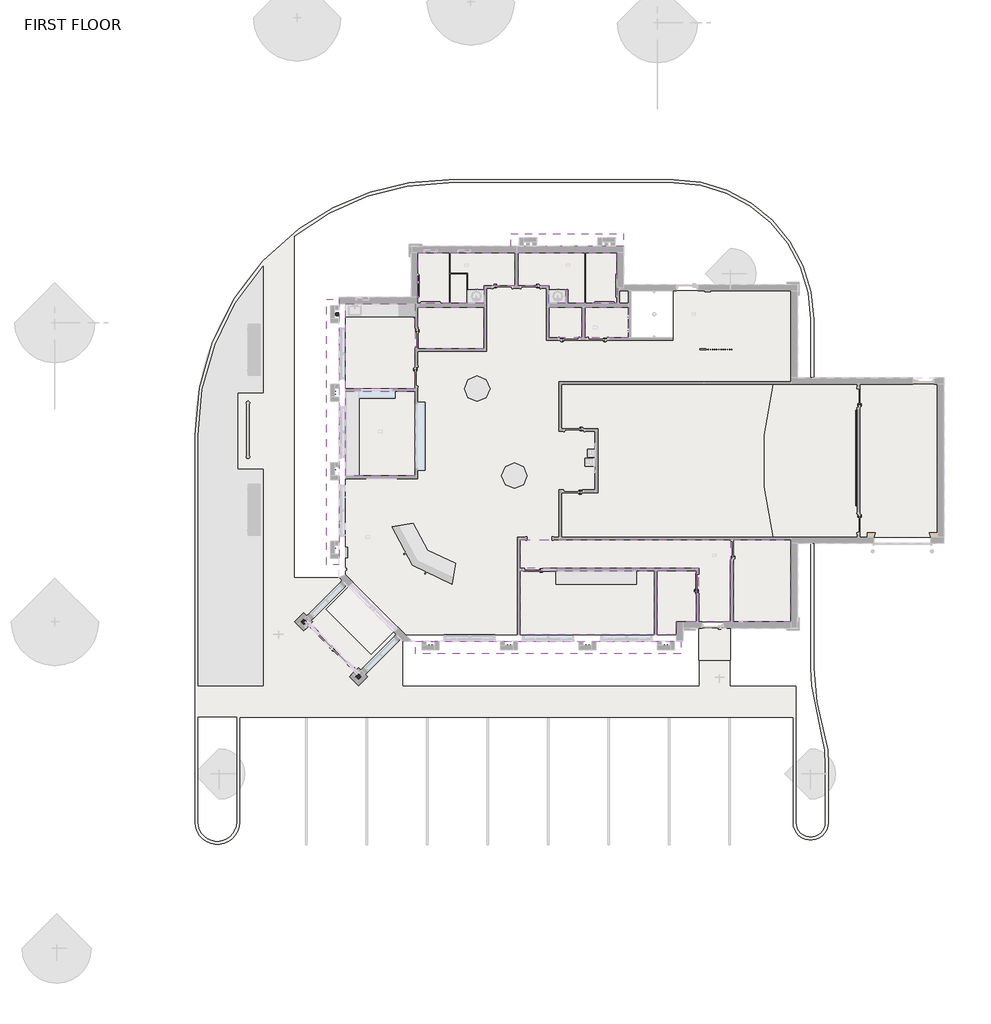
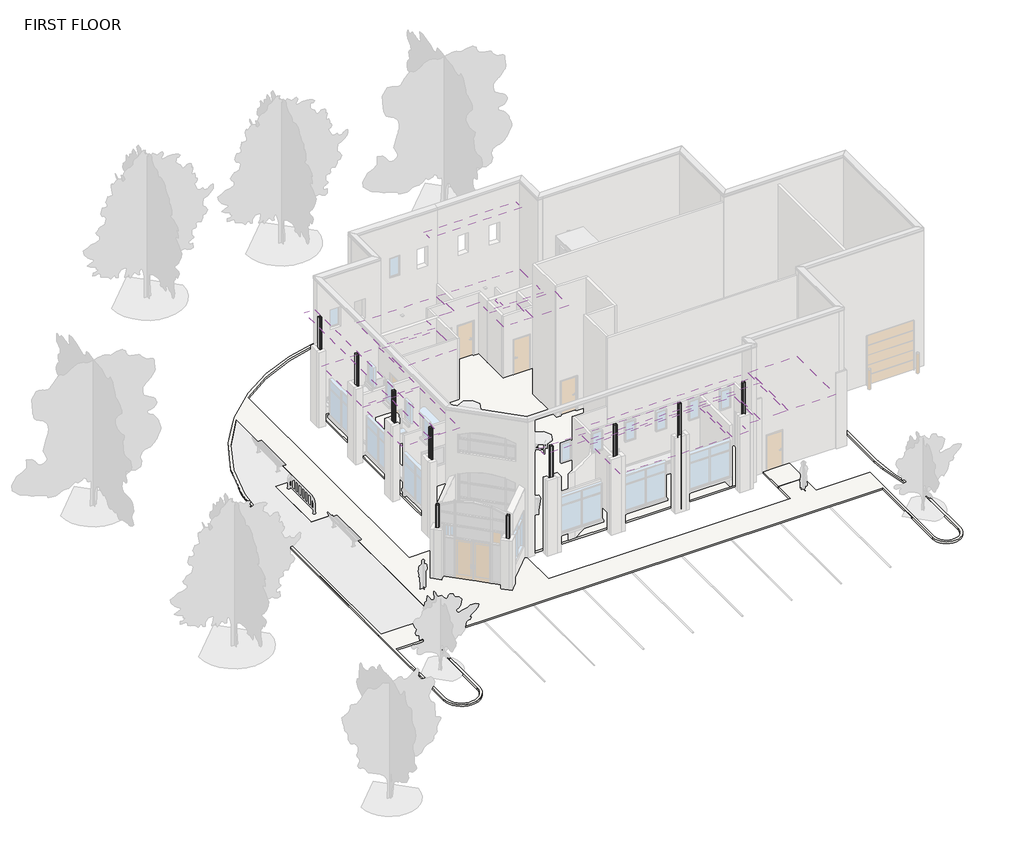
# One storey, part 5 of 7: 11 coverings, 10 columns, 4 slabs, 3 roofs.
"""IFC4 building model written with IfcOpenShell, lengths in millimetres."""

from ifc_helpers import new_model, si_unit, point, frame, frame_2d, origin, place, context, project, spatial, polyline, circle_curve, trimmed, segment, composite_curve, outline, extrude, element, save

model = new_model("IFC4")

# Units and contexts
model_context = context("Model", 3, world=origin())
ifc_project = project(units=[si_unit("LENGTHUNIT", "METRE", prefix="MILLI")], contexts=[model_context])

# Site, building, storey
site = spatial("IfcSite", under=ifc_project)
building = spatial("IfcBuilding", under=site)
storey = spatial("IfcBuildingStorey", under=building, Name="FIRST FLOOR", Elevation=30480.0)

# Columns
placement = place(None, origin())
element("IfcColumn", 1, ObjectType="HSS-Hollow Structural Section-Column : HSS6X6X1/2", at=placement, inside=storey, context=model_context, shape_type="SweptSolid", body=[
    extrude(outline(composite_curve([segment(trimmed(circle_curve(frame_2d((-12403.0493155, -6306.813022)), 23.6140625), [point((-12403.0493155, -6283.1989595))], [point((-12379.435253, -6306.813022))], False, "CARTESIAN"), True, "CONTINUOUS"), segment(polyline([(-12379.435253, -6306.813022), (-12379.435253, -6411.984897)]), True, "CONTINUOUS"), segment(trimmed(circle_curve(frame_2d((-12403.0493155, -6411.984897)), 23.6140625), [point((-12379.435253, -6411.984897))], [point((-12403.0493155, -6435.5989595))], False, "CARTESIAN"), True, "CONTINUOUS"), segment(polyline([(-12403.0493155, -6435.5989595), (-12508.2211905, -6435.5989595)]), True, "CONTINUOUS"), segment(trimmed(circle_curve(frame_2d((-12508.2211905, -6411.984897)), 23.6140625), [point((-12508.2211905, -6435.5989595))], [point((-12531.835253, -6411.984897))], False, "CARTESIAN"), True, "CONTINUOUS"), segment(polyline([(-12531.835253, -6411.984897), (-12531.835253, -6306.813022)]), True, "CONTINUOUS"), segment(trimmed(circle_curve(frame_2d((-12508.2211905, -6306.813022)), 23.6140625), [point((-12531.835253, -6306.813022))], [point((-12508.2211905, -6283.1989595))], False, "CARTESIAN"), True, "CONTINUOUS"), segment(polyline([(-12508.2211905, -6283.1989595), (-12403.0493155, -6283.1989595)]), True, "CONTINUOUS")], self_intersect=False), holes=[composite_curve([segment(polyline([(-12403.0493155, -6295.0059907), (-12508.2211905, -6295.0059907)]), True, "CONTINUOUS"), segment(trimmed(circle_curve(frame_2d((-12508.2211905, -6306.813022)), 11.8070312), [point((-12508.2211905, -6295.0059907))], [point((-12520.0282218, -6306.813022))], True, "CARTESIAN"), True, "CONTINUOUS"), segment(polyline([(-12520.0282218, -6306.813022), (-12520.0282218, -6411.984897)]), True, "CONTINUOUS"), segment(trimmed(circle_curve(frame_2d((-12508.2211905, -6411.984897)), 11.8070312), [point((-12520.0282218, -6411.984897))], [point((-12508.2211905, -6423.7919282))], True, "CARTESIAN"), True, "CONTINUOUS"), segment(polyline([(-12508.2211905, -6423.7919282), (-12403.0493155, -6423.7919282)]), True, "CONTINUOUS"), segment(trimmed(circle_curve(frame_2d((-12403.0493155, -6411.984897)), 11.8070312), [point((-12403.0493155, -6423.7919282))], [point((-12391.2422843, -6411.984897))], True, "CARTESIAN"), True, "CONTINUOUS"), segment(polyline([(-12391.2422843, -6411.984897), (-12391.2422843, -6306.813022)]), True, "CONTINUOUS"), segment(trimmed(circle_curve(frame_2d((-12403.0493155, -6306.813022)), 11.8070312), [point((-12391.2422843, -6306.813022))], [point((-12403.0493155, -6295.0059907))], True, "CARTESIAN"), True, "CONTINUOUS")], self_intersect=False)]), frame((0.0, 0.0, 30480.0), z_axis=(0.0, 0.0, 1.0), x_axis=(1.0, 0.0, 0.0)), (0.0, 0.0, 1.0), 6553.2),
])
element("IfcColumn", 2, ObjectType="HSS-Hollow Structural Section-Column : HSS6X6X1/2", at=placement, inside=storey, context=model_context, shape_type="SweptSolid", body=[
    extrude(outline(composite_curve([segment(trimmed(circle_curve(frame_2d((-8643.8594755, -6306.813022)), 23.6140625), [point((-8643.8594755, -6283.1989595))], [point((-8620.245413, -6306.813022))], False, "CARTESIAN"), True, "CONTINUOUS"), segment(polyline([(-8620.245413, -6306.813022), (-8620.245413, -6411.984897)]), True, "CONTINUOUS"), segment(trimmed(circle_curve(frame_2d((-8643.8594755, -6411.984897)), 23.6140625), [point((-8620.245413, -6411.984897))], [point((-8643.8594755, -6435.5989595))], False, "CARTESIAN"), True, "CONTINUOUS"), segment(polyline([(-8643.8594755, -6435.5989595), (-8749.0313505, -6435.5989595)]), True, "CONTINUOUS"), segment(trimmed(circle_curve(frame_2d((-8749.0313505, -6411.984897)), 23.6140625), [point((-8749.0313505, -6435.5989595))], [point((-8772.645413, -6411.984897))], False, "CARTESIAN"), True, "CONTINUOUS"), segment(polyline([(-8772.645413, -6411.984897), (-8772.645413, -6306.813022)]), True, "CONTINUOUS"), segment(trimmed(circle_curve(frame_2d((-8749.0313505, -6306.813022)), 23.6140625), [point((-8772.645413, -6306.813022))], [point((-8749.0313505, -6283.1989595))], False, "CARTESIAN"), True, "CONTINUOUS"), segment(polyline([(-8749.0313505, -6283.1989595), (-8643.8594755, -6283.1989595)]), True, "CONTINUOUS")], self_intersect=False), holes=[composite_curve([segment(polyline([(-8643.8594755, -6295.0059907), (-8749.0313505, -6295.0059907)]), True, "CONTINUOUS"), segment(trimmed(circle_curve(frame_2d((-8749.0313505, -6306.813022)), 11.8070312), [point((-8749.0313505, -6295.0059907))], [point((-8760.8383818, -6306.813022))], True, "CARTESIAN"), True, "CONTINUOUS"), segment(polyline([(-8760.8383818, -6306.813022), (-8760.8383818, -6411.984897)]), True, "CONTINUOUS"), segment(trimmed(circle_curve(frame_2d((-8749.0313505, -6411.984897)), 11.8070313), [point((-8760.8383818, -6411.984897))], [point((-8749.0313505, -6423.7919282))], True, "CARTESIAN"), True, "CONTINUOUS"), segment(polyline([(-8749.0313505, -6423.7919282), (-8643.8594755, -6423.7919282)]), True, "CONTINUOUS"), segment(trimmed(circle_curve(frame_2d((-8643.8594755, -6411.984897)), 11.8070312), [point((-8643.8594755, -6423.7919282))], [point((-8632.0524443, -6411.984897))], True, "CARTESIAN"), True, "CONTINUOUS"), segment(polyline([(-8632.0524443, -6411.984897), (-8632.0524443, -6306.813022)]), True, "CONTINUOUS"), segment(trimmed(circle_curve(frame_2d((-8643.8594755, -6306.813022)), 11.8070312), [point((-8632.0524443, -6306.813022))], [point((-8643.8594755, -6295.0059907))], True, "CARTESIAN"), True, "CONTINUOUS")], self_intersect=False)]), frame((0.0, 0.0, 30480.0), z_axis=(0.0, 0.0, 1.0), x_axis=(1.0, 0.0, 0.0)), (0.0, 0.0, 1.0), 6553.2),
])
element("IfcColumn", 3, ObjectType="HSS-Hollow Structural Section-Column : HSS6X6X1/2", at=placement, inside=storey, context=model_context, shape_type="SweptSolid", body=[
    extrude(outline(composite_curve([segment(trimmed(circle_curve(frame_2d((-4884.6696355, -6306.813022)), 23.6140625), [point((-4884.6696355, -6283.1989595))], [point((-4861.055573, -6306.813022))], False, "CARTESIAN"), True, "CONTINUOUS"), segment(polyline([(-4861.055573, -6306.813022), (-4861.055573, -6411.984897)]), True, "CONTINUOUS"), segment(trimmed(circle_curve(frame_2d((-4884.6696355, -6411.984897)), 23.6140625), [point((-4861.055573, -6411.984897))], [point((-4884.6696355, -6435.5989595))], False, "CARTESIAN"), True, "CONTINUOUS"), segment(polyline([(-4884.6696355, -6435.5989595), (-4989.8415105, -6435.5989595)]), True, "CONTINUOUS"), segment(trimmed(circle_curve(frame_2d((-4989.8415105, -6411.984897)), 23.6140625), [point((-4989.8415105, -6435.5989595))], [point((-5013.455573, -6411.984897))], False, "CARTESIAN"), True, "CONTINUOUS"), segment(polyline([(-5013.455573, -6411.984897), (-5013.455573, -6306.813022)]), True, "CONTINUOUS"), segment(trimmed(circle_curve(frame_2d((-4989.8415105, -6306.813022)), 23.6140625), [point((-5013.455573, -6306.813022))], [point((-4989.8415105, -6283.1989595))], False, "CARTESIAN"), True, "CONTINUOUS"), segment(polyline([(-4989.8415105, -6283.1989595), (-4884.6696355, -6283.1989595)]), True, "CONTINUOUS")], self_intersect=False), holes=[composite_curve([segment(polyline([(-4884.6696355, -6295.0059907), (-4989.8415105, -6295.0059907)]), True, "CONTINUOUS"), segment(trimmed(circle_curve(frame_2d((-4989.8415105, -6306.813022)), 11.8070312), [point((-4989.8415105, -6295.0059907))], [point((-5001.6485418, -6306.813022))], True, "CARTESIAN"), True, "CONTINUOUS"), segment(polyline([(-5001.6485418, -6306.813022), (-5001.6485418, -6411.984897)]), True, "CONTINUOUS"), segment(trimmed(circle_curve(frame_2d((-4989.8415105, -6411.984897)), 11.8070313), [point((-5001.6485418, -6411.984897))], [point((-4989.8415105, -6423.7919282))], True, "CARTESIAN"), True, "CONTINUOUS"), segment(polyline([(-4989.8415105, -6423.7919282), (-4884.6696355, -6423.7919282)]), True, "CONTINUOUS"), segment(trimmed(circle_curve(frame_2d((-4884.6696355, -6411.984897)), 11.8070312), [point((-4884.6696355, -6423.7919282))], [point((-4872.8626043, -6411.984897))], True, "CARTESIAN"), True, "CONTINUOUS"), segment(polyline([(-4872.8626043, -6411.984897), (-4872.8626043, -6306.813022)]), True, "CONTINUOUS"), segment(trimmed(circle_curve(frame_2d((-4884.6696355, -6306.813022)), 11.8070312), [point((-4872.8626043, -6306.813022))], [point((-4884.6696355, -6295.0059907))], True, "CARTESIAN"), True, "CONTINUOUS")], self_intersect=False)]), frame((0.0, 0.0, 30480.0), z_axis=(0.0, 0.0, 1.0), x_axis=(1.0, 0.0, 0.0)), (0.0, 0.0, 1.0), 6553.2),
])
element("IfcColumn", 4, ObjectType="HSS-Hollow Structural Section-Column : HSS6X6X1/2", at=placement, inside=storey, context=model_context, shape_type="SweptSolid", body=[
    extrude(outline(composite_curve([segment(trimmed(circle_curve(frame_2d((-1125.4797955, -6306.813022)), 23.6140625), [point((-1125.4797955, -6283.1989595))], [point((-1101.865733, -6306.813022))], False, "CARTESIAN"), True, "CONTINUOUS"), segment(polyline([(-1101.865733, -6306.813022), (-1101.865733, -6411.984897)]), True, "CONTINUOUS"), segment(trimmed(circle_curve(frame_2d((-1125.4797955, -6411.984897)), 23.6140625), [point((-1101.865733, -6411.984897))], [point((-1125.4797955, -6435.5989595))], False, "CARTESIAN"), True, "CONTINUOUS"), segment(polyline([(-1125.4797955, -6435.5989595), (-1230.6516705, -6435.5989595)]), True, "CONTINUOUS"), segment(trimmed(circle_curve(frame_2d((-1230.6516705, -6411.984897)), 23.6140625), [point((-1230.6516705, -6435.5989595))], [point((-1254.265733, -6411.984897))], False, "CARTESIAN"), True, "CONTINUOUS"), segment(polyline([(-1254.265733, -6411.984897), (-1254.265733, -6306.813022)]), True, "CONTINUOUS"), segment(trimmed(circle_curve(frame_2d((-1230.6516705, -6306.813022)), 23.6140625), [point((-1254.265733, -6306.813022))], [point((-1230.6516705, -6283.1989595))], False, "CARTESIAN"), True, "CONTINUOUS"), segment(polyline([(-1230.6516705, -6283.1989595), (-1125.4797955, -6283.1989595)]), True, "CONTINUOUS")], self_intersect=False), holes=[composite_curve([segment(polyline([(-1125.4797955, -6295.0059907), (-1230.6516705, -6295.0059907)]), True, "CONTINUOUS"), segment(trimmed(circle_curve(frame_2d((-1230.6516705, -6306.813022)), 11.8070312), [point((-1230.6516705, -6295.0059907))], [point((-1242.4587018, -6306.813022))], True, "CARTESIAN"), True, "CONTINUOUS"), segment(polyline([(-1242.4587018, -6306.813022), (-1242.4587018, -6411.984897)]), True, "CONTINUOUS"), segment(trimmed(circle_curve(frame_2d((-1230.6516705, -6411.984897)), 11.8070313), [point((-1242.4587018, -6411.984897))], [point((-1230.6516705, -6423.7919282))], True, "CARTESIAN"), True, "CONTINUOUS"), segment(polyline([(-1230.6516705, -6423.7919282), (-1125.4797955, -6423.7919282)]), True, "CONTINUOUS"), segment(trimmed(circle_curve(frame_2d((-1125.4797955, -6411.984897)), 11.8070312), [point((-1125.4797955, -6423.7919282))], [point((-1113.6727643, -6411.984897))], True, "CARTESIAN"), True, "CONTINUOUS"), segment(polyline([(-1113.6727643, -6411.984897), (-1113.6727643, -6306.813022)]), True, "CONTINUOUS"), segment(trimmed(circle_curve(frame_2d((-1125.4797955, -6306.813022)), 11.8070312), [point((-1113.6727643, -6306.813022))], [point((-1125.4797955, -6295.0059907))], True, "CARTESIAN"), True, "CONTINUOUS")], self_intersect=False)]), frame((0.0, 0.0, 30480.0), z_axis=(0.0, 0.0, 1.0), x_axis=(1.0, 0.0, 0.0)), (0.0, 0.0, 1.0), 6553.2),
])
element("IfcColumn", 5, ObjectType="HSS-Hollow Structural Section-Column : HSS6X6X1/2", at=placement, inside=storey, context=model_context, shape_type="SweptSolid", body=[
    extrude(outline(composite_curve([segment(trimmed(circle_curve(frame_2d((-15835.667507, -7960.3466657)), 23.6140625), [point((-15818.9698433, -7943.6490019))], [point((-15818.9698433, -7977.0443294))], False, "CARTESIAN"), True, "CONTINUOUS"), segment(polyline([(-15818.9698433, -7977.0443294), (-15893.3375893, -8051.4120754)]), True, "CONTINUOUS"), segment(trimmed(circle_curve(frame_2d((-15910.035253, -8034.7144117)), 23.6140625), [point((-15893.3375893, -8051.4120754))], [point((-15926.7329168, -8051.4120754))], False, "CARTESIAN"), True, "CONTINUOUS"), segment(polyline([(-15926.7329168, -8051.4120754), (-16001.1006628, -7977.0443294)]), True, "CONTINUOUS"), segment(trimmed(circle_curve(frame_2d((-15984.402999, -7960.3466657)), 23.6140625), [point((-16001.1006628, -7977.0443294))], [point((-16001.1006628, -7943.6490019))], False, "CARTESIAN"), True, "CONTINUOUS"), segment(polyline([(-16001.1006628, -7943.6490019), (-15926.7329168, -7869.2812559)]), True, "CONTINUOUS"), segment(trimmed(circle_curve(frame_2d((-15910.035253, -7885.9789197)), 23.6140625), [point((-15926.7329168, -7869.2812559))], [point((-15893.3375893, -7869.2812559))], False, "CARTESIAN"), True, "CONTINUOUS"), segment(polyline([(-15893.3375893, -7869.2812559), (-15818.9698433, -7943.6490019)]), True, "CONTINUOUS")], self_intersect=False), holes=[composite_curve([segment(polyline([(-15827.3186752, -7951.9978338), (-15901.6864212, -7877.6300878)]), True, "CONTINUOUS"), segment(trimmed(circle_curve(frame_2d((-15910.035253, -7885.9789197)), 11.8070312), [point((-15901.6864212, -7877.6300878))], [point((-15918.3840849, -7877.6300878))], True, "CARTESIAN"), True, "CONTINUOUS"), segment(polyline([(-15918.3840849, -7877.6300878), (-15992.7518309, -7951.9978338)]), True, "CONTINUOUS"), segment(trimmed(circle_curve(frame_2d((-15984.402999, -7960.3466657)), 11.8070313), [point((-15992.7518309, -7951.9978338))], [point((-15992.7518309, -7968.6954975))], True, "CARTESIAN"), True, "CONTINUOUS"), segment(polyline([(-15992.7518309, -7968.6954975), (-15918.3840849, -8043.0632435)]), True, "CONTINUOUS"), segment(trimmed(circle_curve(frame_2d((-15910.035253, -8034.7144117)), 11.8070312), [point((-15918.3840849, -8043.0632435))], [point((-15901.6864212, -8043.0632435))], True, "CARTESIAN"), True, "CONTINUOUS"), segment(polyline([(-15901.6864212, -8043.0632435), (-15827.3186752, -7968.6954975)]), True, "CONTINUOUS"), segment(trimmed(circle_curve(frame_2d((-15835.667507, -7960.3466657)), 11.8070312), [point((-15827.3186752, -7968.6954975))], [point((-15827.3186752, -7951.9978338))], True, "CARTESIAN"), True, "CONTINUOUS")], self_intersect=False)]), frame((0.0, 0.0, 30480.0), z_axis=(0.0, 0.0, 1.0), x_axis=(1.0, 0.0, 0.0)), (0.0, 0.0, 1.0), 4419.6),
])
element("IfcColumn", 6, ObjectType="HSS-Hollow Structural Section-Column : HSS6X6X1/2", at=placement, inside=storey, context=model_context, shape_type="SweptSolid", body=[
    extrude(outline(composite_curve([segment(polyline([(-18510.2852955, -5252.3335497), (-18435.9175495, -5326.7012957)]), True, "CONTINUOUS"), segment(trimmed(circle_curve(frame_2d((-18452.6152132, -5343.3989595)), 23.6140625), [point((-18435.9175495, -5326.7012957))], [point((-18435.9175495, -5360.0966232))], False, "CARTESIAN"), True, "CONTINUOUS"), segment(polyline([(-18435.9175495, -5360.0966232), (-18510.2852955, -5434.4643692)]), True, "CONTINUOUS"), segment(trimmed(circle_curve(frame_2d((-18526.9829592, -5417.7667055)), 23.6140625), [point((-18510.2852955, -5434.4643692))], [point((-18543.6806229, -5434.4643692))], False, "CARTESIAN"), True, "CONTINUOUS"), segment(polyline([(-18543.6806229, -5434.4643692), (-18618.0483689, -5360.0966232)]), True, "CONTINUOUS"), segment(trimmed(circle_curve(frame_2d((-18601.3507052, -5343.3989595)), 23.6140625), [point((-18618.0483689, -5360.0966232))], [point((-18618.0483689, -5326.7012957))], False, "CARTESIAN"), True, "CONTINUOUS"), segment(polyline([(-18618.0483689, -5326.7012957), (-18543.6806229, -5252.3335497)]), True, "CONTINUOUS"), segment(trimmed(circle_curve(frame_2d((-18526.9829592, -5269.0312135)), 23.6140625), [point((-18543.6806229, -5252.3335497))], [point((-18510.2852955, -5252.3335497))], False, "CARTESIAN"), True, "CONTINUOUS")], self_intersect=False), holes=[composite_curve([segment(trimmed(circle_curve(frame_2d((-18526.9829592, -5269.0312135)), 11.8070312), [point((-18518.6341274, -5260.6823816))], [point((-18535.3317911, -5260.6823816))], True, "CARTESIAN"), True, "CONTINUOUS"), segment(polyline([(-18535.3317911, -5260.6823816), (-18609.6995371, -5335.0501276)]), True, "CONTINUOUS"), segment(trimmed(circle_curve(frame_2d((-18601.3507052, -5343.3989595)), 11.8070312), [point((-18609.6995371, -5335.0501276))], [point((-18609.6995371, -5351.7477913))], True, "CARTESIAN"), True, "CONTINUOUS"), segment(polyline([(-18609.6995371, -5351.7477913), (-18535.3317911, -5426.1155373)]), True, "CONTINUOUS"), segment(trimmed(circle_curve(frame_2d((-18526.9829592, -5417.7667055)), 11.8070312), [point((-18535.3317911, -5426.1155373))], [point((-18518.6341274, -5426.1155373))], True, "CARTESIAN"), True, "CONTINUOUS"), segment(polyline([(-18518.6341274, -5426.1155373), (-18444.2663813, -5351.7477913)]), True, "CONTINUOUS"), segment(trimmed(circle_curve(frame_2d((-18452.6152132, -5343.3989595)), 11.8070313), [point((-18444.2663813, -5351.7477913))], [point((-18444.2663813, -5335.0501276))], True, "CARTESIAN"), True, "CONTINUOUS"), segment(polyline([(-18444.2663813, -5335.0501276), (-18518.6341274, -5260.6823816)]), True, "CONTINUOUS")], self_intersect=False)]), frame((0.0, 0.0, 30480.0), z_axis=(0.0, 0.0, 1.0), x_axis=(1.0, 0.0, 0.0)), (0.0, 0.0, 1.0), 4419.6),
])
element("IfcColumn", 7, ObjectType="HSS-Hollow Structural Section-Column : HSS6X6X1/2", at=placement, inside=storey, context=model_context, shape_type="SweptSolid", body=[
    extrude(outline(composite_curve([segment(trimmed(circle_curve(frame_2d((-16873.4493155, 9335.984623)), 23.6140625), [point((-16849.835253, 9335.984623))], [point((-16873.4493155, 9312.3705605))], False, "CARTESIAN"), True, "CONTINUOUS"), segment(polyline([(-16873.4493155, 9312.3705605), (-16978.6211905, 9312.3705605)]), True, "CONTINUOUS"), segment(trimmed(circle_curve(frame_2d((-16978.6211905, 9335.984623)), 23.6140625), [point((-16978.6211905, 9312.3705605))], [point((-17002.235253, 9335.984623))], False, "CARTESIAN"), True, "CONTINUOUS"), segment(polyline([(-17002.235253, 9335.984623), (-17002.235253, 9441.156498)]), True, "CONTINUOUS"), segment(trimmed(circle_curve(frame_2d((-16978.6211905, 9441.156498)), 23.6140625), [point((-17002.235253, 9441.156498))], [point((-16978.6211905, 9464.7705605))], False, "CARTESIAN"), True, "CONTINUOUS"), segment(polyline([(-16978.6211905, 9464.7705605), (-16873.4493155, 9464.7705605)]), True, "CONTINUOUS"), segment(trimmed(circle_curve(frame_2d((-16873.4493155, 9441.156498)), 23.6140625), [point((-16873.4493155, 9464.7705605))], [point((-16849.835253, 9441.156498))], False, "CARTESIAN"), True, "CONTINUOUS"), segment(polyline([(-16849.835253, 9441.156498), (-16849.835253, 9335.984623)]), True, "CONTINUOUS")], self_intersect=False), holes=[composite_curve([segment(polyline([(-16861.6422843, 9335.984623), (-16861.6422843, 9441.156498)]), True, "CONTINUOUS"), segment(trimmed(circle_curve(frame_2d((-16873.4493155, 9441.156498)), 11.8070313), [point((-16861.6422843, 9441.156498))], [point((-16873.4493155, 9452.9635293))], True, "CARTESIAN"), True, "CONTINUOUS"), segment(polyline([(-16873.4493155, 9452.9635293), (-16978.6211905, 9452.9635293)]), True, "CONTINUOUS"), segment(trimmed(circle_curve(frame_2d((-16978.6211905, 9441.156498)), 11.8070313), [point((-16978.6211905, 9452.9635293))], [point((-16990.4282218, 9441.156498))], True, "CARTESIAN"), True, "CONTINUOUS"), segment(polyline([(-16990.4282218, 9441.156498), (-16990.4282218, 9335.984623)]), True, "CONTINUOUS"), segment(trimmed(circle_curve(frame_2d((-16978.6211905, 9335.984623)), 11.8070312), [point((-16990.4282218, 9335.984623))], [point((-16978.6211905, 9324.1775918))], True, "CARTESIAN"), True, "CONTINUOUS"), segment(polyline([(-16978.6211905, 9324.1775918), (-16873.4493155, 9324.1775918)]), True, "CONTINUOUS"), segment(trimmed(circle_curve(frame_2d((-16873.4493155, 9335.984623)), 11.8070312), [point((-16873.4493155, 9324.1775918))], [point((-16861.6422843, 9335.984623))], True, "CARTESIAN"), True, "CONTINUOUS")], self_intersect=False)]), frame((0.0, 0.0, 30480.0), z_axis=(0.0, 0.0, 1.0), x_axis=(1.0, 0.0, 0.0)), (0.0, 0.0, 1.0), 6553.2),
])
element("IfcColumn", 8, ObjectType="HSS-Hollow Structural Section-Column : HSS6X6X1/2", at=placement, inside=storey, context=model_context, shape_type="SweptSolid", body=[
    extrude(outline(composite_curve([segment(trimmed(circle_curve(frame_2d((-16873.4493155, 5576.794783)), 23.6140625), [point((-16849.835253, 5576.794783))], [point((-16873.4493155, 5553.1807205))], False, "CARTESIAN"), True, "CONTINUOUS"), segment(polyline([(-16873.4493155, 5553.1807205), (-16978.6211905, 5553.1807205)]), True, "CONTINUOUS"), segment(trimmed(circle_curve(frame_2d((-16978.6211905, 5576.794783)), 23.6140625), [point((-16978.6211905, 5553.1807205))], [point((-17002.235253, 5576.794783))], False, "CARTESIAN"), True, "CONTINUOUS"), segment(polyline([(-17002.235253, 5576.794783), (-17002.235253, 5681.966658)]), True, "CONTINUOUS"), segment(trimmed(circle_curve(frame_2d((-16978.6211905, 5681.966658)), 23.6140625), [point((-17002.235253, 5681.966658))], [point((-16978.6211905, 5705.5807205))], False, "CARTESIAN"), True, "CONTINUOUS"), segment(polyline([(-16978.6211905, 5705.5807205), (-16873.4493155, 5705.5807205)]), True, "CONTINUOUS"), segment(trimmed(circle_curve(frame_2d((-16873.4493155, 5681.966658)), 23.6140625), [point((-16873.4493155, 5705.5807205))], [point((-16849.835253, 5681.966658))], False, "CARTESIAN"), True, "CONTINUOUS"), segment(polyline([(-16849.835253, 5681.966658), (-16849.835253, 5576.794783)]), True, "CONTINUOUS")], self_intersect=False), holes=[composite_curve([segment(polyline([(-16861.6422843, 5576.794783), (-16861.6422843, 5681.966658)]), True, "CONTINUOUS"), segment(trimmed(circle_curve(frame_2d((-16873.4493155, 5681.966658)), 11.8070313), [point((-16861.6422843, 5681.966658))], [point((-16873.4493155, 5693.7736893))], True, "CARTESIAN"), True, "CONTINUOUS"), segment(polyline([(-16873.4493155, 5693.7736893), (-16978.6211905, 5693.7736893)]), True, "CONTINUOUS"), segment(trimmed(circle_curve(frame_2d((-16978.6211905, 5681.966658)), 11.8070313), [point((-16978.6211905, 5693.7736893))], [point((-16990.4282218, 5681.966658))], True, "CARTESIAN"), True, "CONTINUOUS"), segment(polyline([(-16990.4282218, 5681.966658), (-16990.4282218, 5576.794783)]), True, "CONTINUOUS"), segment(trimmed(circle_curve(frame_2d((-16978.6211905, 5576.794783)), 11.8070312), [point((-16990.4282218, 5576.794783))], [point((-16978.6211905, 5564.9877518))], True, "CARTESIAN"), True, "CONTINUOUS"), segment(polyline([(-16978.6211905, 5564.9877518), (-16873.4493155, 5564.9877518)]), True, "CONTINUOUS"), segment(trimmed(circle_curve(frame_2d((-16873.4493155, 5576.794783)), 11.8070312), [point((-16873.4493155, 5564.9877518))], [point((-16861.6422843, 5576.794783))], True, "CARTESIAN"), True, "CONTINUOUS")], self_intersect=False)]), frame((0.0, 0.0, 30480.0), z_axis=(0.0, 0.0, 1.0), x_axis=(1.0, 0.0, 0.0)), (0.0, 0.0, 1.0), 6553.2),
])
element("IfcColumn", 9, ObjectType="HSS-Hollow Structural Section-Column : HSS6X6X1/2", at=placement, inside=storey, context=model_context, shape_type="SweptSolid", body=[
    extrude(outline(composite_curve([segment(trimmed(circle_curve(frame_2d((-16873.4493155, 1817.604943)), 23.6140625), [point((-16849.835253, 1817.604943))], [point((-16873.4493155, 1793.9908805))], False, "CARTESIAN"), True, "CONTINUOUS"), segment(polyline([(-16873.4493155, 1793.9908805), (-16978.6211905, 1793.9908805)]), True, "CONTINUOUS"), segment(trimmed(circle_curve(frame_2d((-16978.6211905, 1817.604943)), 23.6140625), [point((-16978.6211905, 1793.9908805))], [point((-17002.235253, 1817.604943))], False, "CARTESIAN"), True, "CONTINUOUS"), segment(polyline([(-17002.235253, 1817.604943), (-17002.235253, 1922.776818)]), True, "CONTINUOUS"), segment(trimmed(circle_curve(frame_2d((-16978.6211905, 1922.776818)), 23.6140625), [point((-17002.235253, 1922.776818))], [point((-16978.6211905, 1946.3908805))], False, "CARTESIAN"), True, "CONTINUOUS"), segment(polyline([(-16978.6211905, 1946.3908805), (-16873.4493155, 1946.3908805)]), True, "CONTINUOUS"), segment(trimmed(circle_curve(frame_2d((-16873.4493155, 1922.776818)), 23.6140625), [point((-16873.4493155, 1946.3908805))], [point((-16849.835253, 1922.776818))], False, "CARTESIAN"), True, "CONTINUOUS"), segment(polyline([(-16849.835253, 1922.776818), (-16849.835253, 1817.604943)]), True, "CONTINUOUS")], self_intersect=False), holes=[composite_curve([segment(polyline([(-16861.6422843, 1817.604943), (-16861.6422843, 1922.776818)]), True, "CONTINUOUS"), segment(trimmed(circle_curve(frame_2d((-16873.4493155, 1922.776818)), 11.8070313), [point((-16861.6422843, 1922.776818))], [point((-16873.4493155, 1934.5838493))], True, "CARTESIAN"), True, "CONTINUOUS"), segment(polyline([(-16873.4493155, 1934.5838493), (-16978.6211905, 1934.5838493)]), True, "CONTINUOUS"), segment(trimmed(circle_curve(frame_2d((-16978.6211905, 1922.776818)), 11.8070313), [point((-16978.6211905, 1934.5838493))], [point((-16990.4282218, 1922.776818))], True, "CARTESIAN"), True, "CONTINUOUS"), segment(polyline([(-16990.4282218, 1922.776818), (-16990.4282218, 1817.604943)]), True, "CONTINUOUS"), segment(trimmed(circle_curve(frame_2d((-16978.6211905, 1817.604943)), 11.8070312), [point((-16990.4282218, 1817.604943))], [point((-16978.6211905, 1805.7979118))], True, "CARTESIAN"), True, "CONTINUOUS"), segment(polyline([(-16978.6211905, 1805.7979118), (-16873.4493155, 1805.7979118)]), True, "CONTINUOUS"), segment(trimmed(circle_curve(frame_2d((-16873.4493155, 1817.604943)), 11.8070312), [point((-16873.4493155, 1805.7979118))], [point((-16861.6422843, 1817.604943))], True, "CARTESIAN"), True, "CONTINUOUS")], self_intersect=False)]), frame((0.0, 0.0, 30480.0), z_axis=(0.0, 0.0, 1.0), x_axis=(1.0, 0.0, 0.0)), (0.0, 0.0, 1.0), 6553.2),
])
element("IfcColumn", 10, ObjectType="HSS-Hollow Structural Section-Column : HSS6X6X1/2", at=placement, inside=storey, context=model_context, shape_type="SweptSolid", body=[
    extrude(outline(composite_curve([segment(trimmed(circle_curve(frame_2d((-16873.4493155, -1941.584897)), 23.6140625), [point((-16849.835253, -1941.584897))], [point((-16873.4493155, -1965.1989595))], False, "CARTESIAN"), True, "CONTINUOUS"), segment(polyline([(-16873.4493155, -1965.1989595), (-16978.6211905, -1965.1989595)]), True, "CONTINUOUS"), segment(trimmed(circle_curve(frame_2d((-16978.6211905, -1941.584897)), 23.6140625), [point((-16978.6211905, -1965.1989595))], [point((-17002.235253, -1941.584897))], False, "CARTESIAN"), True, "CONTINUOUS"), segment(polyline([(-17002.235253, -1941.584897), (-17002.235253, -1836.413022)]), True, "CONTINUOUS"), segment(trimmed(circle_curve(frame_2d((-16978.6211905, -1836.413022)), 23.6140625), [point((-17002.235253, -1836.413022))], [point((-16978.6211905, -1812.7989595))], False, "CARTESIAN"), True, "CONTINUOUS"), segment(polyline([(-16978.6211905, -1812.7989595), (-16873.4493155, -1812.7989595)]), True, "CONTINUOUS"), segment(trimmed(circle_curve(frame_2d((-16873.4493155, -1836.413022)), 23.6140625), [point((-16873.4493155, -1812.7989595))], [point((-16849.835253, -1836.413022))], False, "CARTESIAN"), True, "CONTINUOUS"), segment(polyline([(-16849.835253, -1836.413022), (-16849.835253, -1941.584897)]), True, "CONTINUOUS")], self_intersect=False), holes=[composite_curve([segment(polyline([(-16861.6422843, -1941.584897), (-16861.6422843, -1836.413022)]), True, "CONTINUOUS"), segment(trimmed(circle_curve(frame_2d((-16873.4493155, -1836.413022)), 11.8070313), [point((-16861.6422843, -1836.413022))], [point((-16873.4493155, -1824.6059907))], True, "CARTESIAN"), True, "CONTINUOUS"), segment(polyline([(-16873.4493155, -1824.6059907), (-16978.6211905, -1824.6059907)]), True, "CONTINUOUS"), segment(trimmed(circle_curve(frame_2d((-16978.6211905, -1836.413022)), 11.8070313), [point((-16978.6211905, -1824.6059907))], [point((-16990.4282218, -1836.413022))], True, "CARTESIAN"), True, "CONTINUOUS"), segment(polyline([(-16990.4282218, -1836.413022), (-16990.4282218, -1941.584897)]), True, "CONTINUOUS"), segment(trimmed(circle_curve(frame_2d((-16978.6211905, -1941.584897)), 11.8070312), [point((-16990.4282218, -1941.584897))], [point((-16978.6211905, -1953.3919282))], True, "CARTESIAN"), True, "CONTINUOUS"), segment(polyline([(-16978.6211905, -1953.3919282), (-16873.4493155, -1953.3919282)]), True, "CONTINUOUS"), segment(trimmed(circle_curve(frame_2d((-16873.4493155, -1941.584897)), 11.8070312), [point((-16873.4493155, -1953.3919282))], [point((-16861.6422843, -1941.584897))], True, "CARTESIAN"), True, "CONTINUOUS")], self_intersect=False)]), frame((0.0, 0.0, 30480.0), z_axis=(0.0, 0.0, 1.0), x_axis=(1.0, 0.0, 0.0)), (0.0, 0.0, 1.0), 6553.2),
])

# Coverings
element("IfcCovering", 11, ObjectType="2' x 2' ACT System", at=placement, inside=storey, context=model_context, shape_type="SweptSolid", body=[
    extrude(outline(polyline([(-8159.860253, -2898.6489595), (-1736.860653, -2898.6489595), (-1736.860653, -5952.9989595), (-8159.860253, -5952.9989595), (-8159.860253, -2898.6489595)])), frame((0.0, 0.0, 33528.0), z_axis=(0.0, 0.0, 1.0), x_axis=(1.0, 0.0, 0.0)), (0.0, 0.0, 1.0), 57.15),
])
element("IfcCovering", 12, ObjectType="2' x 2' ACT System", at=placement, inside=storey, context=model_context, shape_type="SweptSolid", body=[
    extrude(outline(polyline([(-13189.060253, 1644.7760405), (-16519.635253, 1644.7760405), (-16519.635253, 5708.7760405), (-13189.060253, 5708.7760405), (-13189.060253, 1644.7760405)])), frame((0.0, 0.0, 33528.0), z_axis=(0.0, 0.0, 1.0), x_axis=(1.0, 0.0, 0.0)), (0.0, 0.0, 1.0), 57.15),
])
element("IfcCovering", 13, ObjectType="2' x 2' ACT System", at=placement, inside=storey, context=model_context, shape_type="SweptSolid", body=[
    extrude(outline(polyline([(-16519.635253, 9896.6010405), (-13189.060253, 9896.6010405), (-13189.060253, 5832.6010405), (-16519.635253, 5832.6010405), (-16519.635253, 9896.6010405)])), frame((0.0, 0.0, 33528.0), z_axis=(0.0, 0.0, 1.0), x_axis=(1.0, 0.0, 0.0)), (0.0, 0.0, 1.0), 57.15),
])
element("IfcCovering", 14, ObjectType="2' x 2' ACT System", at=placement, inside=storey, context=model_context, shape_type="SweptSolid", body=[
    extrude(outline(polyline([(396.764747, -5343.3989595), (396.764747, -2774.8239595), (-8159.860253, -2774.8239595), (-8159.860253, -1403.2239595), (-6305.660253, -1403.2239595), (1920.764747, -1403.2239595), (1920.764747, -5343.3989595), (396.764747, -5343.3989595)])), frame((0.0, 0.0, 33528.0), z_axis=(0.0, 0.0, 1.0), x_axis=(1.0, 0.0, 0.0)), (0.0, 0.0, 1.0), 57.15),
])
element("IfcCovering", 15, ObjectType="2' x 2' ACT System", at=placement, inside=storey, context=model_context, shape_type="SweptSolid", body=[
    extrude(outline(polyline([(272.939747, -2898.6489595), (272.939747, -5343.3989595), (-670.035253, -5343.3989595), (-670.035253, -5952.9989595), (-1613.035653, -5952.9989595), (-1613.035653, -2898.6489595), (272.939747, -2898.6489595)])), frame((0.0, 0.0, 33528.0), z_axis=(0.0, 0.0, 1.0), x_axis=(1.0, 0.0, 0.0)), (0.0, 0.0, 1.0), 57.15),
])
element("IfcCovering", 16, ObjectType="2' x 2' ACT System", at=placement, inside=storey, context=model_context, shape_type="SweptSolid", body=[
    extrude(outline(polyline([(4816.364747, -1403.2239595), (4816.364747, -5343.3989595), (2044.589747, -5343.3989595), (2044.589747, -1403.2239595), (4816.364747, -1403.2239595)])), frame((0.0, 0.0, 33528.0), z_axis=(0.0, 0.0, 1.0), x_axis=(1.0, 0.0, 0.0)), (0.0, 0.0, 1.0), 57.15),
])
element("IfcCovering", 17, ObjectType="2' x 2' ACT System", at=placement, inside=storey, context=model_context, shape_type="SweptSolid", body=[
    extrude(outline(polyline([(-13065.235253, 12335.0010405), (-8394.810253, 12335.0010405), (-8394.810253, 10747.5010405), (-9890.235253, 10747.5010405), (-9890.235253, 9912.4760405), (-13065.235253, 9912.4760405), (-13065.235253, 10049.0010405), (-13065.235253, 12335.0010405)])), frame((0.0, 0.0, 33528.0), z_axis=(0.0, 0.0, 1.0), x_axis=(1.0, 0.0, 0.0)), (0.0, 0.0, 1.0), 57.15),
])
element("IfcCovering", 18, ObjectType="2' x 2' ACT System", at=placement, inside=storey, context=model_context, shape_type="SweptSolid", body=[
    extrude(outline(polyline([(-3514.835253, 12335.0010405), (-3514.835253, 10658.6010405), (-3514.835253, 9912.4760405), (-5864.335253, 9912.4760405), (-5864.335253, 10572.8760405), (-5988.160253, 10572.8760405), (-5988.160253, 9912.4760405), (-6775.560253, 9912.4760405), (-6775.560253, 10747.5010405), (-8270.985253, 10747.5010405), (-8270.985253, 12335.0010405), (-3514.835253, 12335.0010405)])), frame((0.0, 0.0, 33528.0), z_axis=(0.0, 0.0, 1.0), x_axis=(1.0, 0.0, 0.0)), (0.0, 0.0, 1.0), 57.15),
])
element("IfcCovering", 19, ObjectType="2' x 2' ACT System", at=placement, inside=storey, context=model_context, shape_type="SweptSolid", body=[
    extrude(outline(polyline([(-13065.235253, 7740.7760405), (-13065.235253, 9728.3260405), (-9890.235253, 9728.3260405), (-9890.235253, 7740.7760405), (-13065.235253, 7740.7760405)])), frame((0.0, 0.0, 33528.0), z_axis=(0.0, 0.0, 1.0), x_axis=(1.0, 0.0, 0.0)), (0.0, 0.0, 1.0), 57.15),
])
element("IfcCovering", 20, ObjectType="2' x 2' ACT System", at=placement, inside=storey, context=model_context, shape_type="SweptSolid", body=[
    extrude(outline(polyline([(-5188.029773, 9728.3260405), (-5188.029773, 8271.0010405), (-6775.560253, 8271.0010405), (-6775.560253, 9728.3260405), (-5188.029773, 9728.3260405)])), frame((0.0, 0.0, 33528.0), z_axis=(0.0, 0.0, 1.0), x_axis=(1.0, 0.0, 0.0)), (0.0, 0.0, 1.0), 57.15),
])
element("IfcCovering", 21, ObjectType="2' x 2' ACT System", at=placement, inside=storey, context=model_context, shape_type="SweptSolid", body=[
    extrude(outline(polyline([(-2967.147753, 9728.3260405), (-2967.147753, 8271.0010405), (-5064.204773, 8271.0010405), (-5064.204773, 9728.3260405), (-2967.147753, 9728.3260405)])), frame((0.0, 0.0, 33528.0), z_axis=(0.0, 0.0, 1.0), x_axis=(1.0, 0.0, 0.0)), (0.0, 0.0, 1.0), 57.15),
])

# Roofs
element("IfcRoof", 22, ObjectType="Generic - 9\"", at=placement, inside=storey, context=model_context, shape_type="SweptSolid", body=[
    extrude(outline(polyline([(-13166.835253, -6867.3989595), (-13166.835253, -6257.7989595), (-466.865733, -6257.7989595), (-466.865733, -6867.3989595), (-13166.835253, -6867.3989595)])), frame((0.0, 0.0, 37033.2), z_axis=(0.0, 0.0, 1.0), x_axis=(1.0, 0.0, 0.0)), (0.0, 0.0, 1.0), 228.6),
])
element("IfcRoof", 23, ObjectType="Generic - 9\"", at=placement, inside=storey, context=model_context, shape_type="SweptSolid", body=[
    extrude(outline(polyline([(-17434.035253, -2600.1989595), (-17434.035253, 10099.7705605), (-16824.435253, 10099.7705605), (-16824.435253, -2600.1989595), (-17434.035253, -2600.1989595)])), frame((0.0, 0.0, 37033.2), z_axis=(0.0, 0.0, 1.0), x_axis=(1.0, 0.0, 0.0)), (0.0, 0.0, 1.0), 228.6),
])
element("IfcRoof", 24, ObjectType="Generic - 9\"", at=placement, inside=storey, context=model_context, shape_type="SweptSolid", body=[
    extrude(outline(polyline([(-8594.835253, 12639.8010405), (-8594.835253, 13249.4010405), (-3210.035253, 13249.4010405), (-3210.035253, 12639.8010405), (-8594.835253, 12639.8010405)])), frame((0.0, 0.0, 37033.2), z_axis=(0.0, 0.0, 1.0), x_axis=(1.0, 0.0, 0.0)), (0.0, 0.0, 1.0), 228.6),
])

# Slabs
element("IfcSlab", 25, ObjectType="Concrete - 4\"", at=placement, inside=storey, context=model_context, shape_type="SweptSolid", body=[
    extrude(outline(polyline([(-13065.235253, 9896.6010405), (-13065.235253, 12335.0010405), (-3514.835253, 12335.0010405), (-3514.835253, 10506.2010405), (-2854.435253, 10506.2010405), (-2854.435253, 8271.0010405), (-822.435253, 8271.0010405), (-822.435253, 10506.2010405), (4816.364747, 10506.2010405), (4816.364747, 6035.8010405), (11826.764747, 6035.8010405), (11826.764747, -1279.3989595), (4816.364747, -1279.3989595), (4816.364747, -5343.3989595), (-670.035253, -5343.3989595), (-670.035253, -5952.9989595), (-13650.1829592, -5952.9989595), (-16519.635253, -3083.5466657), (-16519.635253, 9896.6010405), (-13065.235253, 9896.6010405)])), frame((0.0, 0.0, 30378.4), z_axis=(0.0, 0.0, 1.0), x_axis=(1.0, 0.0, 0.0)), (0.0, 0.0, 1.0), 101.6),
])
element("IfcSlab", 26, ObjectType="Concrete - 4\"", at=placement, inside=storey, context=model_context, shape_type="SweptSolid", body=[
    extrude(outline(polyline([(396.764747, -5648.1989595), (1920.764747, -5648.1989595), (1920.764747, -7172.1989595), (396.764747, -7172.1989595), (396.764747, -5648.1989595)])), frame((0.0, 0.0, 30378.4), z_axis=(0.0, 0.0, 1.0), x_axis=(1.0, 0.0, 0.0)), (0.0, 0.0, 1.0), 101.6),
])
element("IfcSlab", 27, ObjectType="Concrete - 4\"", at=placement, inside=storey, context=model_context, shape_type="SweptSolid", body=[
    extrude(outline(composite_curve([segment(trimmed(circle_curve(frame_2d((18007.0934557, -7230.0234415)), 12111.0403124), [point((5900.665264, -7564.2297969))], [point((6420.4398393, -10755.1837814))], True, "CARTESIAN"), True, "CONTINUOUS"), segment(trimmed(circle_curve(frame_2d((2438.7853037, -11966.5750183)), 4161.855544), [point((6420.4398393, -10755.1837814))], [point((6594.0918739, -12199.960701))], False, "CARTESIAN"), True, "CONTINUOUS"), segment(polyline([(6594.0918739, -12199.960701), (6594.0342519, -14944.8940843)]), True, "CONTINUOUS"), segment(trimmed(circle_curve(frame_2d((5755.8342519, -14944.8940843)), 838.2), [point((6594.0342519, -14944.8940843))], [point((4917.6342519, -14944.8940843))], False, "CARTESIAN"), True, "CONTINUOUS"), segment(polyline([(4917.6342519, -14944.8940843), (4917.6342519, -9915.3989595), (-21597.6454668, -9915.3989595), (-21597.6454668, -14929.625341)]), True, "CONTINUOUS"), segment(trimmed(circle_curve(frame_2d((-22664.4454668, -14929.625341)), 1066.8), [point((-21597.6454668, -14929.625341))], [point((-23731.2454668, -14929.625341))], False, "CARTESIAN"), True, "CONTINUOUS"), segment(polyline([(-23731.2454668, -14929.625341), (-23733.5657419, -8391.3989595), (-23733.5657419, 3597.4010405)]), True, "CONTINUOUS"), segment(trimmed(circle_curve(frame_2d((-11449.3923274, 3597.4010405)), 12284.1734145), [point((-23733.5657419, 3597.4010405))], [point((-18752.7442995, 13474.7471643))], False, "CARTESIAN"), True, "CONTINUOUS"), segment(trimmed(circle_curve(frame_2d((-11617.8585677, 3825.2415406)), 12000.8146885), [point((-18752.7442995, 13474.7471643))], [point((-11554.882421, 15825.8909894))], False, "CARTESIAN"), True, "CONTINUOUS"), segment(polyline([(-11554.882421, 15825.8909894), (-812.4529895, 15837.9680159)]), True, "CONTINUOUS"), segment(trimmed(circle_curve(frame_2d((-804.9143169, 9132.3722535)), 6705.6), [point((-812.4529895, 15837.9680159))], [point((5900.665264, 9148.9204822))], False, "CARTESIAN"), True, "CONTINUOUS"), segment(polyline([(5900.665264, 9148.9204822), (5900.665264, -7564.2297969)]), True, "CONTINUOUS")], self_intersect=False), holes=[composite_curve([segment(polyline([(1920.764747, -8391.3991254), (5070.0342519, -8391.3991254), (5070.0342519, -14944.8940843)]), True, "CONTINUOUS"), segment(trimmed(circle_curve(frame_2d((5755.8342519, -14944.8940843)), 685.7999999), [point((5070.0342519, -14944.8940843))], [point((6441.6342517, -14944.9084807))], True, "CARTESIAN"), True, "CONTINUOUS"), segment(polyline([(6441.6342517, -14944.9084807), (6441.6919644, -12195.6477783)]), True, "CONTINUOUS"), segment(trimmed(circle_curve(frame_2d((2438.7854456, -11966.5749761)), 4009.4556921), [point((6441.6919644, -12195.6477783))], [point((6274.6386864, -10799.5424735))], True, "CARTESIAN"), True, "CONTINUOUS"), segment(trimmed(circle_curve(frame_2d((18007.0985023, -7230.0206277)), 12263.4456635), [point((6274.6386864, -10799.5424735))], [point((5798.7693976, -8391.3991233))], False, "CARTESIAN"), True, "CONTINUOUS"), segment(trimmed(circle_curve(frame_2d((18007.0934397, -7230.0237664)), 12263.4403263), [point((5798.7693976, -8391.3991233))], [point((5748.2652478, -7566.3271994))], False, "CARTESIAN"), True, "CONTINUOUS"), segment(polyline([(5748.2652478, -7566.3271994), (5748.2652475, 9148.7313547)]), True, "CONTINUOUS"), segment(trimmed(circle_curve(frame_2d((-804.9143255, 9132.3722567)), 6553.199992), [point((5748.2652475, 9148.7313547))], [point((-812.2816603, 15685.5681074))], True, "CARTESIAN"), True, "CONTINUOUS"), segment(polyline([(-812.2816603, 15685.5681074), (-11555.1981803, 15673.4905381)]), True, "CONTINUOUS"), segment(trimmed(circle_curve(frame_2d((-11617.8585677, 3825.2415406)), 11848.4146885), [point((-11555.1981803, 15673.4905381))], [point((-18958.035253, 13126.1413282))], True, "CARTESIAN"), True, "CONTINUOUS"), segment(polyline([(-18958.035253, 13126.1413282), (-18958.035253, -3209.7989595), (-16824.435253, -3209.7989595), (-16369.9810806, -3664.2531319), (-17447.6118151, -4741.8838664), (-15292.3503461, -6897.1453355), (-14214.7196115, -5819.514601), (-13776.435253, -6257.7989595), (-13776.435253, -8391.3989595), (396.764747, -8391.3989595), (396.764747, -7172.1989595), (1920.764747, -7172.1989595), (1920.764747, -8391.3991254)]), True, "CONTINUOUS")], self_intersect=False), composite_curve([segment(polyline([(-20482.035253, 5629.3807205), (-20482.035253, 11696.2458939)]), True, "CONTINUOUS"), segment(trimmed(circle_curve(frame_2d((-11449.3923274, 3597.4010405)), 12131.7734145), [point((-20482.035253, 11696.2458939))], [point((-23581.1657419, 3597.4010405))], True, "CARTESIAN"), True, "CONTINUOUS"), segment(polyline([(-23581.1657419, 3597.4010405), (-23581.1657419, -8391.3989595), (-20482.035253, -8391.3989595), (-20482.035253, 1971.8010405), (-21701.235253, 1971.8010405), (-21701.235253, 5629.3807205), (-20482.035253, 5629.3807205)]), True, "CONTINUOUS")], self_intersect=False), composite_curve([segment(polyline([(-21750.0454668, -9915.3989595), (-23581.1657419, -9915.3989595), (-23578.8454668, -14929.625341)]), True, "CONTINUOUS"), segment(trimmed(circle_curve(frame_2d((-22664.4454668, -14929.625341)), 914.4), [point((-23578.8454668, -14929.625341))], [point((-21750.0454668, -14929.625341))], True, "CARTESIAN"), True, "CONTINUOUS"), segment(polyline([(-21750.0454668, -14929.625341), (-21750.0454668, -9915.3989595)]), True, "CONTINUOUS")], self_intersect=False)]), frame((0.0, 0.0, 30378.4), z_axis=(0.0, 0.0, 1.0), x_axis=(1.0, 0.0, 0.0)), (0.0, 0.0, 1.0), 101.6),
])
element("IfcSlab", 28, ObjectType="Wood Joist 10\" - Wood Finish", at=placement, inside=storey, context=model_context, shape_type="SweptSolid", body=[
    extrude(outline(composite_curve([segment(polyline([(3969.7648621, 6035.8010405), (8111.6552189, 6035.8010405), (8111.6552189, -1295.2739595), (3969.7648621, -1295.2739595)]), True, "CONTINUOUS"), segment(trimmed(circle_curve(frame_2d((17879.6388867, 2370.2635405)), 14384.7405449), [point((3969.7648621, -1295.2739595))], [point((3969.7648621, 6035.8010405))], False, "CARTESIAN"), True, "CONTINUOUS")], self_intersect=False)), frame((0.0, 0.0, 30359.35), z_axis=(0.0, 0.0, 1.0), x_axis=(1.0, 0.0, 0.0)), (0.0, 0.0, 1.0), 273.05),
])

save(model, "model.ifc")
